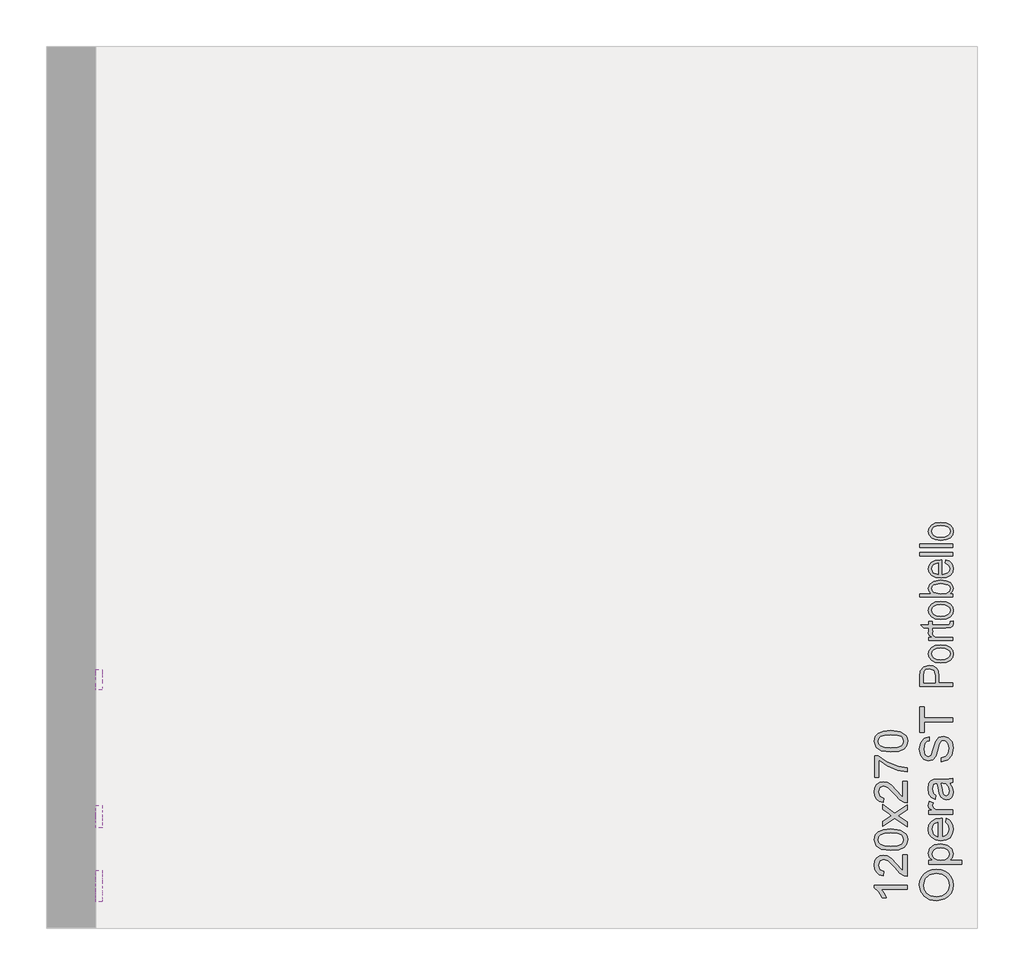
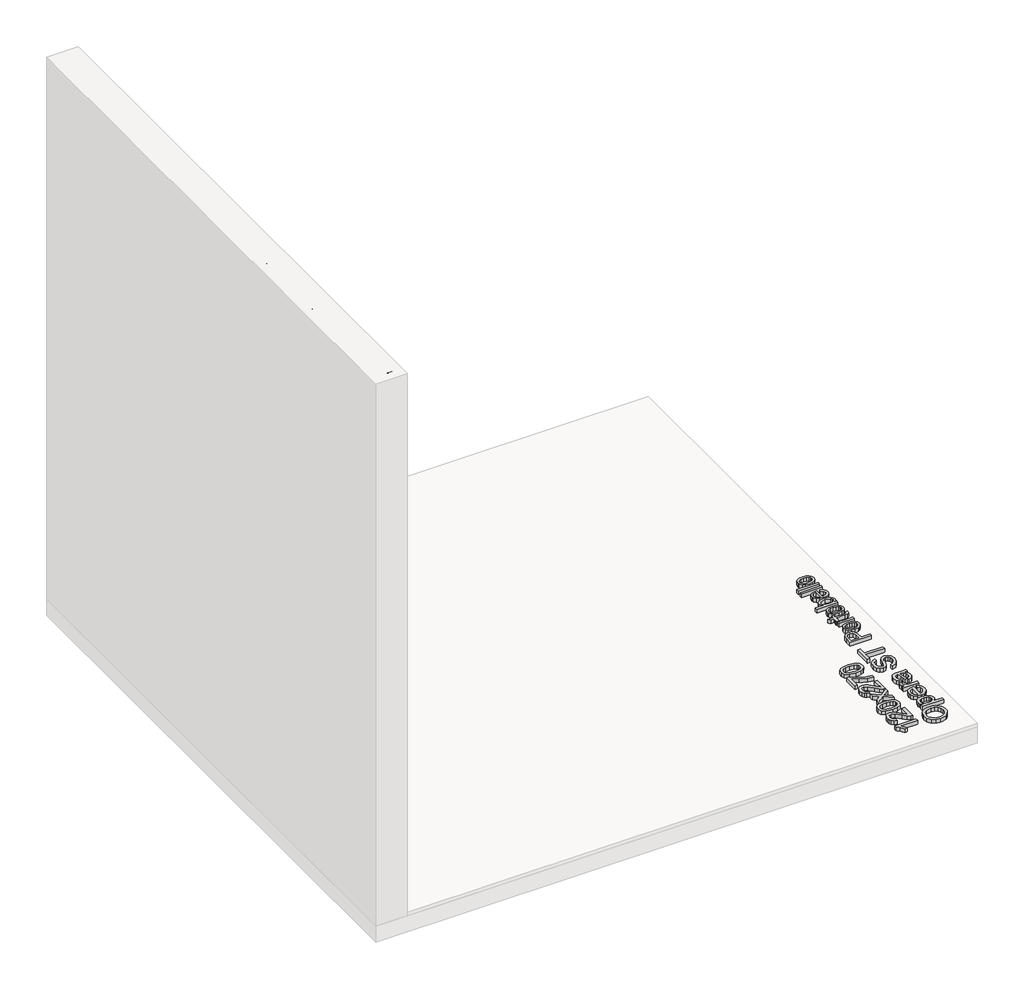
# One storey, part 5 of 6: 6 proxies.
"""IFC4 building model written with IfcOpenShell, lengths in millimetres."""

from ifc_helpers import new_model, si_unit, frame, origin, origin_with_axes, place, context, project, spatial, polyline, outline, extrude, element, save

model = new_model("IFC4")

# Units and contexts
model_context = context("Model", 3, world=origin())
ifc_project = project(units=[si_unit("LENGTHUNIT", "METRE", prefix="MILLI")], contexts=[model_context])

# Site, building, storey
site = spatial("IfcSite", under=ifc_project)
building = spatial("IfcBuilding", under=site)
storey = spatial("IfcBuildingStorey", under=building, Name="PORTOBELLO - SHOWROOM", Elevation=0.0)

# Proxies
placement = place(None, origin())
element("IfcBuildingElementProxy", 1, Name="10mm Arial", ObjectType="10mm Arial", at=placement, inside=storey, context=model_context, shape_type="SweptSolid", body=[
    extrude(outline(polyline([(-5290.4568129, 3759.179326), (-5312.670754, 3762.5270522), (-5329.4768298, 3772.5702306), (-5340.0534372, 3787.9047785), (-5343.578973, 3807.1266127), (-5341.923504, 3820.3029195), (-5336.957097, 3832.1180629), (-5329.02924, 3841.9282495), (-5318.4894209, 3849.0896856), (-5305.846543, 3853.4674814), (-5291.6095098, 3854.9267466), (-5277.1824042, 3853.3908393), (-5264.3617167, 3848.7831173), (-5253.8035034, 3841.3580324), (-5246.1638206, 3831.3700362), (-5241.5285075, 3819.6560603), (-5239.9834031, 3807.0530363), (-5241.6909887, 3793.6743944), (-5246.8137455, 3781.791806), (-5254.8887553, 3772.0061449), (-5265.4530999, 3764.9182851), (-5290.4568129, 3759.179326)]), holes=[polyline([(-5290.3341855, 3771.7363648), (-5274.619493, 3774.2471594), (-5262.644934, 3781.7795433), (-5255.0665649, 3793.1011117), (-5252.5404419, 3806.9794599), (-5255.0910904, 3821.0601433), (-5262.7430359, 3832.4001058), (-5275.0854768, 3839.8773073), (-5291.7076116, 3842.3697079), (-5312.4316307, 3838.1022767), (-5326.1536291, 3825.6310771), (-5331.0219342, 3807.2001891), (-5328.6766865, 3793.6927885), (-5321.6409433, 3782.2087389), (-5309.1237584, 3774.3544583), (-5290.3341855, 3771.7363648)])]), origin_with_axes(), (0.0, 0.0, 1.0), 20.0),
    extrude(outline(polyline([(-5213.2996957, 3870.6230451), (-5315.3256357, 3870.6230451), (-5315.3256357, 3883.1800839), (-5303.0138516, 3883.1800839), (-5313.4249121, 3891.8620989), (-5316.8952656, 3903.5852719), (-5312.0392232, 3919.5022995), (-5298.354013, 3929.9010972), (-5279.0034201, 3933.4082389), (-5258.6595457, 3929.4473761), (-5244.8026572, 3917.9449324), (-5239.9834031, 3902.0646929), (-5243.2085019, 3891.1385977), (-5251.3632195, 3883.1800839), (-5213.2996957, 3883.1800839), (-5213.2996957, 3870.6230451)]), holes=[polyline([(-5277.8507231, 3883.1800839), (-5266.5935341, 3884.5381816), (-5258.7208594, 3888.6124747), (-5254.0855463, 3894.6242796), (-5252.5404419, 3901.7949128), (-5254.1407286, 3909.082042), (-5258.9415886, 3915.2471311), (-5267.1024375, 3919.4501829), (-5278.7826909, 3920.8512002), (-5289.9785663, 3919.4839054), (-5297.9616056, 3915.3820212), (-5302.7440715, 3909.3794133), (-5304.3382268, 3902.3099476), (-5302.6429039, 3895.2128908), (-5297.5569354, 3888.9803566), (-5289.2397366, 3884.6301521), (-5277.8507231, 3883.1800839)])]), origin_with_axes(), (0.0, 0.0, 1.0), 20.0),
    extrude(outline(polyline([(-5263.5278508, 3999.1855397), (-5261.958221, 4011.4973238), (-5252.6814633, 4007.0612801), (-5245.7468877, 3999.9826173), (-5241.4242743, 3990.4207511), (-5239.9834031, 3978.535097), (-5242.4696723, 3963.8014231), (-5249.9284797, 3952.4645263), (-5261.8754475, 3945.2356451), (-5277.8261977, 3942.826018), (-5294.3134424, 3945.2601705), (-5306.6436206, 3952.5626281), (-5314.3323543, 3963.7462408), (-5316.8952656, 3977.8238585), (-5314.3384857, 3991.4630835), (-5306.6681461, 4002.3615876), (-5294.3624934, 4009.5076953), (-5277.8997741, 4011.8897312), (-5274.5152597, 4011.8161548), (-5274.5152597, 3955.3830568), (-5265.1158747, 3957.5566262), (-5258.2058246, 3962.6058066), (-5253.9567876, 3969.8929358), (-5252.5404419, 3978.7803517), (-5255.1646668, 3991.0921358), (-5263.5278508, 3999.1855397)]), holes=[polyline([(-5287.0722985, 3955.3830568), (-5287.0722985, 3999.3326925), (-5298.4521149, 3994.3049719), (-5302.8666988, 3986.9841202), (-5304.3382268, 3977.7748076), (-5299.6416, 3962.311501), (-5294.1509612, 3957.4462616), (-5287.0722985, 3955.3830568)])]), origin_with_axes(), (0.0, 0.0, 1.0), 20.0),
    extrude(outline(polyline([(-5241.553033, 4024.44677), (-5315.3256357, 4024.44677), (-5315.3256357, 4035.4341789), (-5304.4118032, 4035.4341789), (-5314.4672444, 4043.2332772), (-5316.8952656, 4051.0814265), (-5313.0202419, 4063.6875162), (-5301.7630528, 4059.4936614), (-5304.3382268, 4050.6644935), (-5301.8611547, 4043.564371), (-5294.9940241, 4039.0394225), (-5280.3277952, 4037.0038088), (-5241.553033, 4037.0038088), (-5241.553033, 4024.44677)])), origin_with_axes(), (0.0, 0.0, 1.0), 20.0),
    extrude(outline(polyline([(-5250.970812, 4118.6245608), (-5242.4604752, 4106.4476667), (-5239.9834031, 4092.9954484), (-5241.4733252, 4082.5016145), (-5245.9430914, 4074.7607642), (-5252.7305142, 4069.9874953), (-5261.173406, 4068.3964057), (-5271.1062199, 4070.7999014), (-5278.316707, 4077.115209), (-5282.4369854, 4085.9075887), (-5284.3254463, 4096.7723703), (-5288.6419283, 4118.5509844), (-5291.4378315, 4118.6245608), (-5300.7084578, 4115.16647), (-5304.3382268, 4101.2850561), (-5301.9224684, 4088.5808645), (-5293.3508179, 4082.5230743), (-5294.9204477, 4069.9660355), (-5307.1831809, 4075.3984263), (-5314.3691425, 4086.3367843), (-5316.8952656, 4102.9037368), (-5314.6634481, 4118.1217887), (-5309.0593791, 4126.7179647), (-5300.5367795, 4130.5684629), (-5289.5493706, 4131.1815995), (-5273.9266485, 4131.1815995), (-5252.1112462, 4131.8192617), (-5241.553033, 4134.3208592), (-5241.553033, 4121.7638205), (-5250.970812, 4118.6245608)]), holes=[polyline([(-5276.0848896, 4118.6245608), (-5272.2343914, 4098.3665256), (-5270.1987776, 4087.5630576), (-5266.8878397, 4082.6702271), (-5262.0563228, 4080.9534445), (-5255.2627686, 4084.6935781), (-5252.5404419, 4095.6687243), (-5255.5448115, 4108.3729158), (-5262.8166123, 4116.5644216), (-5272.528697, 4118.5509844), (-5276.0848896, 4118.6245608)])]), origin_with_axes(), (0.0, 0.0, 1.0), 20.0),
    extrude(outline(polyline([(-5276.0848896, 4184.5490143), (-5276.0848896, 4197.1060531), (-5263.5155881, 4201.152755), (-5255.569337, 4211.036518), (-5252.5404419, 4226.0951543), (-5254.833573, 4239.2162788), (-5261.1366178, 4247.6898274), (-5269.5611155, 4250.4734678), (-5277.397002, 4248.3888032), (-5283.0991729, 4239.8539409), (-5287.8939016, 4221.5702058), (-5294.0865819, 4201.888519), (-5303.4307845, 4191.2076784), (-5315.9142469, 4187.688274), (-5330.1267547, 4192.0415443), (-5340.1576704, 4204.7579986), (-5343.578973, 4223.3728275), (-5339.9982549, 4243.2384553), (-5329.4768298, 4256.4822071), (-5313.7560059, 4261.4608768), (-5313.7560059, 4248.903838), (-5321.2485358, 4246.5984442), (-5326.6564012, 4241.7914528), (-5331.0219342, 4223.8633369), (-5326.7054521, 4205.88617), (-5316.2821289, 4200.2453128), (-5307.5755884, 4204.2429638), (-5300.561305, 4224.7462536), (-5294.2582601, 4246.9663262), (-5284.0801916, 4259.1186947), (-5269.8799466, 4263.0305066), (-5254.8580985, 4258.5300835), (-5243.895215, 4245.5806373), (-5239.9834031, 4226.5856636), (-5244.2017833, 4204.1571247), (-5256.9059749, 4189.9691424), (-5276.0848896, 4184.5490143)])), origin_with_axes(), (0.0, 0.0, 1.0), 20.0),
    extrude(outline(polyline([(-5241.553033, 4306.9801423), (-5329.4523043, 4306.9801423), (-5329.4523043, 4274.0179155), (-5342.0093431, 4274.0179155), (-5342.0093431, 4352.4994078), (-5329.4523043, 4352.4994078), (-5329.4523043, 4319.5371811), (-5241.553033, 4319.5371811), (-5241.553033, 4306.9801423)])), origin_with_axes(), (0.0, 0.0, 1.0), 20.0),
])
element("IfcBuildingElementProxy", 2, Name="10mm Arial", ObjectType="10mm Arial", at=placement, inside=storey, context=model_context, shape_type="SweptSolid", body=[
    extrude(outline(polyline([(3755.8223239, 2565.0933702), (3759.1700501, 2587.3073114), (3769.2132286, 2604.1133872), (3784.5477764, 2614.6899946), (3803.7696106, 2618.2155303), (3816.9459174, 2616.5600614), (3828.7610608, 2611.5936544), (3838.5712474, 2603.6657974), (3845.7326836, 2593.1259783), (3850.1104793, 2580.4831004), (3851.5697445, 2566.2460672), (3850.0338372, 2551.8189616), (3845.4261152, 2538.998274), (3838.0010303, 2528.4400608), (3828.0130341, 2520.800378), (3816.2990583, 2516.1650649), (3803.6960342, 2514.6199605), (3790.3173923, 2516.3275461), (3778.4348039, 2521.4503029), (3768.6491428, 2529.5253127), (3761.5612831, 2540.0896573), (3755.8223239, 2565.0933702)]), holes=[polyline([(3768.3793627, 2564.9707429), (3770.8901573, 2549.2560503), (3778.4225412, 2537.2814914), (3789.7441096, 2529.7031223), (3803.6224578, 2527.1769993), (3817.7031412, 2529.7276478), (3829.0431037, 2537.3795933), (3836.5203053, 2549.7220342), (3839.0127058, 2566.344169), (3834.7452746, 2587.0681881), (3822.274075, 2600.7901865), (3803.843187, 2605.6584916), (3790.3357864, 2603.3132439), (3778.8517368, 2596.2775007), (3770.9974562, 2583.7603158), (3768.3793627, 2564.9707429)])]), frame((-7865.9813168, 0.0, 0.0), z_axis=(1.0, 0.0, 0.0), x_axis=(0.0, 1.0, 0.0)), (0.0, 0.0, 1.0), 20.0),
    extrude(outline(polyline([(3867.266043, 2487.9362531), (3867.266043, 2589.9621931), (3879.8230818, 2589.9621931), (3879.8230818, 2577.650409), (3888.5050969, 2588.0614695), (3900.2282698, 2591.531823), (3916.1452974, 2586.6757806), (3926.5440952, 2572.9905704), (3930.0512368, 2553.6399775), (3926.090374, 2533.2961031), (3914.5879303, 2519.4392146), (3898.7076909, 2514.6199605), (3887.7815956, 2517.8450593), (3879.8230818, 2525.9997769), (3879.8230818, 2487.9362531), (3867.266043, 2487.9362531)]), holes=[polyline([(3879.8230818, 2552.4872805), (3881.1811795, 2541.2300915), (3885.2554726, 2533.3574168), (3891.2672775, 2528.7221036), (3898.4379107, 2527.1769993), (3905.7250399, 2528.7772859), (3911.890129, 2533.578146), (3916.0931808, 2541.7389949), (3917.4941981, 2553.4192483), (3916.1269033, 2564.6151236), (3912.0250191, 2572.5981629), (3906.0224112, 2577.3806289), (3898.9529455, 2578.9747842), (3891.8558887, 2577.2794613), (3885.6233546, 2572.1934927), (3881.27315, 2563.876294), (3879.8230818, 2552.4872805)])]), frame((-7865.9813168, 0.0, 0.0), z_axis=(1.0, 0.0, 0.0), x_axis=(0.0, 1.0, 0.0)), (0.0, 0.0, 1.0), 20.0),
    extrude(outline(polyline([(3995.8285376, 2538.1644082), (4008.1403217, 2536.5947783), (4003.704278, 2527.3180207), (3996.6256152, 2520.3834451), (3987.063749, 2516.0608316), (3975.1780949, 2514.6199605), (3960.444421, 2517.1062296), (3949.1075242, 2524.5650371), (3941.878643, 2536.5120049), (3939.4690159, 2552.4627551), (3941.9031685, 2568.9499998), (3949.2056261, 2581.280178), (3960.3892387, 2588.9689117), (3974.4668564, 2591.531823), (3988.1060814, 2588.9750431), (3999.0045855, 2581.3047035), (4006.1506932, 2568.9990508), (4008.5327292, 2552.5363315), (4008.4591528, 2549.1518171), (3952.0260547, 2549.1518171), (3954.1996241, 2539.7524321), (3959.2488045, 2532.842382), (3966.5359337, 2528.5933449), (3975.4233496, 2527.1769993), (3987.7351337, 2529.8012242), (3995.8285376, 2538.1644082)]), holes=[polyline([(3952.0260547, 2561.7088559), (3995.9756904, 2561.7088559), (3990.9479698, 2573.0886723), (3983.6271181, 2577.5032562), (3974.4178055, 2578.9747842), (3958.9544989, 2574.2781574), (3954.0892595, 2568.7875186), (3952.0260547, 2561.7088559)])]), frame((-7865.9813168, 0.0, 0.0), z_axis=(1.0, 0.0, 0.0), x_axis=(0.0, 1.0, 0.0)), (0.0, 0.0, 1.0), 20.0),
    extrude(outline(polyline([(4021.0897679, 2516.1895903), (4021.0897679, 2589.9621931), (4032.0771768, 2589.9621931), (4032.0771768, 2579.0483606), (4039.8762751, 2589.1038018), (4047.7244244, 2591.531823), (4060.3305141, 2587.6567993), (4056.1366593, 2576.3996102), (4047.3074914, 2578.9747842), (4040.2073689, 2576.4977121), (4035.6824204, 2569.6305815), (4033.6468067, 2554.9643526), (4033.6468067, 2516.1895903), (4021.0897679, 2516.1895903)])), frame((-7865.9813168, 0.0, 0.0), z_axis=(1.0, 0.0, 0.0), x_axis=(0.0, 1.0, 0.0)), (0.0, 0.0, 1.0), 20.0),
    extrude(outline(polyline([(4115.2675587, 2525.6073694), (4103.0906646, 2517.0970326), (4089.6384464, 2514.6199605), (4079.1446124, 2516.1098826), (4071.4037621, 2520.5796488), (4066.6304932, 2527.3670716), (4065.0394036, 2535.8099634), (4067.4428993, 2545.7427773), (4073.7582069, 2552.9532644), (4082.5505866, 2557.0735427), (4093.4153682, 2558.9620036), (4115.1939823, 2563.2784857), (4115.2675587, 2566.0743889), (4111.8094679, 2575.3450152), (4097.928054, 2578.9747842), (4085.2238624, 2576.5590258), (4079.1660722, 2567.9873753), (4066.6090335, 2569.5570051), (4072.0414243, 2581.8197383), (4082.9797822, 2589.0056999), (4099.5467348, 2591.531823), (4114.7647866, 2589.3000055), (4123.3609626, 2583.6959365), (4127.2114608, 2575.1733369), (4127.8245975, 2564.185928), (4127.8245975, 2548.5632059), (4128.4622596, 2526.7478036), (4130.9638571, 2516.1895903), (4118.4068184, 2516.1895903), (4115.2675587, 2525.6073694)]), holes=[polyline([(4115.2675587, 2550.721447), (4095.0095235, 2546.8709487), (4084.2060556, 2544.835335), (4079.313225, 2541.5243971), (4077.5964424, 2536.6928802), (4081.336576, 2529.899326), (4092.3117222, 2527.1769993), (4105.0159138, 2530.1813689), (4113.2074195, 2537.4531697), (4115.1939823, 2547.1652543), (4115.2675587, 2550.721447)])]), frame((-7865.9813168, 0.0, 0.0), z_axis=(1.0, 0.0, 0.0), x_axis=(0.0, 1.0, 0.0)), (0.0, 0.0, 1.0), 20.0),
    extrude(outline(polyline([(4181.1920122, 2550.721447), (4193.749051, 2550.721447), (4197.7957529, 2538.1521455), (4207.6795159, 2530.2058944), (4222.7381522, 2527.1769993), (4235.8592767, 2529.4701304), (4244.3328253, 2535.7731752), (4247.1164658, 2544.1976729), (4245.0318011, 2552.0335594), (4236.4969388, 2557.7357303), (4218.2132037, 2562.530459), (4198.5315169, 2568.7231393), (4187.8506763, 2578.0673419), (4184.3312719, 2590.5508043), (4188.6845422, 2604.763312), (4201.4009965, 2614.7942278), (4220.0158254, 2618.2155303), (4239.8814532, 2614.6348123), (4253.125205, 2604.1133872), (4258.1038747, 2588.3925633), (4245.5468359, 2588.3925633), (4243.2414421, 2595.8850932), (4238.4344507, 2601.2929586), (4220.5063348, 2605.6584916), (4202.5291679, 2601.3420095), (4196.8883107, 2590.9186863), (4200.8859617, 2582.2121457), (4221.3892516, 2575.1978624), (4243.6093241, 2568.8948175), (4255.7616926, 2558.716749), (4259.6735045, 2544.516504), (4255.1730815, 2529.4946558), (4242.2236352, 2518.5317724), (4223.2286615, 2514.6199605), (4200.8001226, 2518.8383407), (4186.6121403, 2531.5425323), (4181.1920122, 2550.721447)])), frame((-7865.9813168, 0.0, 0.0), z_axis=(1.0, 0.0, 0.0), x_axis=(0.0, 1.0, 0.0)), (0.0, 0.0, 1.0), 20.0),
    extrude(outline(polyline([(4303.6231402, 2516.1895903), (4303.6231402, 2604.0888617), (4270.6609134, 2604.0888617), (4270.6609134, 2616.6459005), (4349.1424058, 2616.6459005), (4349.1424058, 2604.0888617), (4316.180179, 2604.0888617), (4316.180179, 2516.1895903), (4303.6231402, 2516.1895903)])), frame((-7865.9813168, 0.0, 0.0), z_axis=(1.0, 0.0, 0.0), x_axis=(0.0, 1.0, 0.0)), (0.0, 0.0, 1.0), 20.0),
])
element("IfcBuildingElementProxy", 3, Name="10mm Arial", ObjectType="10mm Arial", at=placement, inside=storey, context=model_context, shape_type="SweptSolid", body=[
    extrude(outline(polyline([(3802.9112193, 2381.1895903), (3790.3541805, 2381.1895903), (3790.3541805, 2459.4748789), (3778.4593294, 2451.0013303), (3765.240103, 2444.6614972), (3765.240103, 2456.531823), (3783.6464655, 2468.2795213), (3794.8178154, 2481.6459005), (3802.9112193, 2481.6459005), (3802.9112193, 2381.1895903)])), frame((-7865.9813168, 0.0, 0.0), z_axis=(1.0, 0.0, 0.0), x_axis=(0.0, 1.0, 0.0)), (0.0, 0.0, 1.0), 20.0),
    extrude(outline(polyline([(3897.0890101, 2393.7466291), (3897.0890101, 2381.1895903), (3831.1645565, 2381.1895903), (3832.5134572, 2389.84708), (3840.15314, 2403.1766709), (3855.8862266, 2417.7325352), (3877.5544761, 2438.652758), (3882.9623415, 2452.8775285), (3877.8487817, 2464.3922349), (3864.4946653, 2469.0888617), (3850.5764632, 2464.5025995), (3845.2912252, 2451.8229334), (3832.7341864, 2453.3925633), (3835.7784099, 2465.5388005), (3842.3604319, 2474.4108879), (3852.136896, 2479.8371473), (3864.7644454, 2481.6459005), (3877.4839654, 2479.6348123), (3887.2420353, 2473.6015475), (3893.450044, 2464.5884386), (3895.5193802, 2453.6378179), (3893.2875628, 2441.730704), (3885.8686092, 2429.4189199), (3867.8791797, 2412.2143053), (3853.43368, 2400.1355131), (3847.7682973, 2393.7466291), (3897.0890101, 2393.7466291)])), frame((-7865.9813168, 0.0, 0.0), z_axis=(1.0, 0.0, 0.0), x_axis=(0.0, 1.0, 0.0)), (0.0, 0.0, 1.0), 20.0),
    extrude(outline(polyline([(3909.6460488, 2430.608405), (3913.3371315, 2459.5116671), (3924.300015, 2476.1767215), (3942.6082756, 2481.6459005), (3957.2745045, 2478.4085389), (3967.4035221, 2469.076599), (3973.289634, 2454.2141664), (3975.5705024, 2430.608405), (3971.9162079, 2401.8277703), (3960.9901126, 2385.1259277), (3952.758753, 2380.9964523), (3942.6082756, 2379.6199605), (3929.5607275, 2382.0111935), (3919.6524391, 2389.1848924), (3912.1476464, 2406.1749092), (3909.6460488, 2430.608405)]), holes=[polyline([(3922.2030876, 2430.6329305), (3923.6746156, 2410.880733), (3928.0891995, 2399.4488), (3934.6620245, 2393.9949495), (3942.6082756, 2392.1769993), (3950.5545267, 2394.0010808), (3957.1273517, 2399.4733255), (3961.5419356, 2410.9113899), (3963.0134636, 2430.6329305), (3961.5909866, 2449.9406039), (3957.3235554, 2461.4614417), (3950.7629932, 2467.1820067), (3942.4611228, 2469.0888617), (3934.6007109, 2467.4088673), (3928.2854033, 2462.3688839), (3923.7236665, 2450.1306762), (3922.2030876, 2430.6329305)])]), frame((-7865.9813168, 0.0, 0.0), z_axis=(1.0, 0.0, 0.0), x_axis=(0.0, 1.0, 0.0)), (0.0, 0.0, 1.0), 20.0),
    extrude(outline(polyline([(3981.8490218, 2381.1895903), (4008.6798819, 2418.2966209), (3983.4186516, 2454.9621931), (3998.477288, 2454.9621931), (4010.6664447, 2437.2793319), (4016.3808784, 2428.9651988), (4021.3350226, 2435.7832784), (4035.2164365, 2454.9621931), (4050.3241238, 2454.9621931), (4023.7875692, 2418.2720955), (4049.3431052, 2381.1895903), (4034.2599433, 2381.1895903), (4018.8579505, 2403.5077647), (4016.0620473, 2407.6035176), (3996.956709, 2381.1895903), (3981.8490218, 2381.1895903)])), frame((-7865.9813168, 0.0, 0.0), z_axis=(1.0, 0.0, 0.0), x_axis=(0.0, 1.0, 0.0)), (0.0, 0.0, 1.0), 20.0),
    extrude(outline(polyline([(4121.5460781, 2393.7466291), (4121.5460781, 2381.1895903), (4055.6216245, 2381.1895903), (4056.9705252, 2389.84708), (4064.6102079, 2403.1766709), (4080.3432946, 2417.7325352), (4102.0115441, 2438.652758), (4107.4194095, 2452.8775285), (4102.3058497, 2464.3922349), (4088.9517333, 2469.0888617), (4075.0335311, 2464.5025995), (4069.7482931, 2451.8229334), (4057.1912544, 2453.3925633), (4060.2354779, 2465.5388005), (4066.8174999, 2474.4108879), (4076.5939639, 2479.8371473), (4089.2215134, 2481.6459005), (4101.9410334, 2479.6348123), (4111.6991033, 2473.6015475), (4117.907112, 2464.5884386), (4119.9764482, 2453.6378179), (4117.7446308, 2441.730704), (4110.3256772, 2429.4189199), (4092.3362477, 2412.2143053), (4077.890748, 2400.1355131), (4072.2253653, 2393.7466291), (4121.5460781, 2393.7466291)])), frame((-7865.9813168, 0.0, 0.0), z_axis=(1.0, 0.0, 0.0), x_axis=(0.0, 1.0, 0.0)), (0.0, 0.0, 1.0), 20.0),
    extrude(outline(polyline([(4134.1031168, 2467.5192319), (4134.1031168, 2480.0762706), (4200.0275704, 2480.0762706), (4200.0275704, 2469.9227276), (4181.3269023, 2442.9079264), (4167.0162927, 2408.4864344), (4162.3564541, 2381.1895903), (4149.7994153, 2381.1895903), (4154.7903477, 2409.516504), (4168.4878207, 2441.5345003), (4187.4705316, 2467.5192319), (4134.1031168, 2467.5192319)])), frame((-7865.9813168, 0.0, 0.0), z_axis=(1.0, 0.0, 0.0), x_axis=(0.0, 1.0, 0.0)), (0.0, 0.0, 1.0), 20.0),
    extrude(outline(polyline([(4211.0149793, 2430.608405), (4214.706062, 2459.5116671), (4225.6689454, 2476.1767215), (4243.9772061, 2481.6459005), (4258.6434349, 2478.4085389), (4268.7724525, 2469.076599), (4274.6585645, 2454.2141664), (4276.9394328, 2430.608405), (4273.2851383, 2401.8277703), (4262.3590431, 2385.1259277), (4254.1276834, 2380.9964523), (4243.9772061, 2379.6199605), (4230.929658, 2382.0111935), (4221.0213696, 2389.1848924), (4213.5165769, 2406.1749092), (4211.0149793, 2430.608405)]), holes=[polyline([(4223.5720181, 2430.6329305), (4225.043546, 2410.880733), (4229.45813, 2399.4488), (4236.030955, 2393.9949495), (4243.9772061, 2392.1769993), (4251.9234572, 2394.0010808), (4258.4962821, 2399.4733255), (4262.9108661, 2410.9113899), (4264.3823941, 2430.6329305), (4262.959917, 2449.9406039), (4258.6924859, 2461.4614417), (4252.1319236, 2467.1820067), (4243.8300533, 2469.0888617), (4235.9696413, 2467.4088673), (4229.6543337, 2462.3688839), (4225.092597, 2450.1306762), (4223.5720181, 2430.6329305)])]), frame((-7865.9813168, 0.0, 0.0), z_axis=(1.0, 0.0, 0.0), x_axis=(0.0, 1.0, 0.0)), (0.0, 0.0, 1.0), 20.0),
])
element("IfcBuildingElementProxy", 4, Name="10mm Arial", ObjectType="10mm Arial", at=placement, inside=storey, context=model_context, shape_type="SweptSolid", body=[
    extrude(outline(polyline([(-5381.553033, 3806.2682214), (-5381.553033, 3793.7111826), (-5459.8383215, 3793.7111826), (-5451.3647729, 3781.8163315), (-5445.0249399, 3768.5971051), (-5456.8952656, 3768.5971051), (-5468.6429639, 3787.0034676), (-5482.0093431, 3798.1748175), (-5482.0093431, 3806.2682214), (-5381.553033, 3806.2682214)])), origin_with_axes(), (0.0, 0.0, 1.0), 20.0),
    extrude(outline(polyline([(-5394.1100717, 3900.4460122), (-5381.553033, 3900.4460122), (-5381.553033, 3834.5215586), (-5390.2105226, 3835.8704593), (-5403.5401135, 3843.510142), (-5418.0959778, 3859.2432287), (-5439.0162006, 3880.9114782), (-5453.2409711, 3886.3193436), (-5464.7556775, 3881.2057838), (-5469.4523043, 3867.8516674), (-5464.8660421, 3853.9334652), (-5452.186376, 3848.6482272), (-5453.7560059, 3836.0911885), (-5465.9022431, 3839.135412), (-5474.7743305, 3845.717434), (-5480.20059, 3855.493898), (-5482.0093431, 3868.1214475), (-5479.9982549, 3880.8409675), (-5473.9649901, 3890.5990374), (-5464.9518813, 3896.8070461), (-5454.0012605, 3898.8763823), (-5442.0941466, 3896.6445649), (-5429.7823625, 3889.2256113), (-5412.5777479, 3871.2361817), (-5400.4989557, 3856.7906821), (-5394.1100717, 3851.1252993), (-5394.1100717, 3900.4460122)])), origin_with_axes(), (0.0, 0.0, 1.0), 20.0),
    extrude(outline(polyline([(-5430.9718476, 3913.0030509), (-5459.8751097, 3916.6941336), (-5476.5401641, 3927.6570171), (-5482.0093431, 3945.9652777), (-5478.7719815, 3960.6315066), (-5469.4400416, 3970.7605242), (-5454.577609, 3976.6466361), (-5430.9718476, 3978.9275045), (-5402.1912129, 3975.27321), (-5385.4893703, 3964.3471147), (-5381.3598949, 3956.1157551), (-5379.9834031, 3945.9652777), (-5382.3746361, 3932.9177296), (-5389.548335, 3923.0094412), (-5406.5383518, 3915.5046485), (-5430.9718476, 3913.0030509)]), holes=[polyline([(-5430.9963731, 3925.5600897), (-5411.2441757, 3927.0316177), (-5399.8122427, 3931.4462016), (-5394.3583921, 3938.0190266), (-5392.5404419, 3945.9652777), (-5394.3645234, 3953.9115288), (-5399.8367681, 3960.4843538), (-5411.2748325, 3964.8989377), (-5430.9963731, 3966.3704657), (-5450.3040465, 3964.9479887), (-5461.8248843, 3960.6805575), (-5467.5454493, 3954.1199953), (-5469.4523043, 3945.8181249), (-5467.7723099, 3937.9577129), (-5462.7323266, 3931.6424054), (-5450.4941189, 3927.0806686), (-5430.9963731, 3925.5600897)])]), origin_with_axes(), (0.0, 0.0, 1.0), 20.0),
    extrude(outline(polyline([(-5381.553033, 3985.2060239), (-5418.6600635, 4012.036884), (-5455.3256357, 3986.7756537), (-5455.3256357, 4001.83429), (-5437.6427745, 4014.0234468), (-5429.3286414, 4019.7378805), (-5436.146721, 4024.6920247), (-5455.3256357, 4038.5734386), (-5455.3256357, 4053.6811259), (-5418.6355381, 4027.1445713), (-5381.553033, 4052.7001072), (-5381.553033, 4037.6169454), (-5403.8712073, 4022.2149526), (-5407.9669602, 4019.4190494), (-5381.553033, 4000.3137111), (-5381.553033, 3985.2060239)])), origin_with_axes(), (0.0, 0.0, 1.0), 20.0),
    extrude(outline(polyline([(-5394.1100717, 4124.9030802), (-5381.553033, 4124.9030802), (-5381.553033, 4058.9786266), (-5390.2105226, 4060.3275273), (-5403.5401135, 4067.96721), (-5418.0959778, 4083.7002967), (-5439.0162006, 4105.3685462), (-5453.2409711, 4110.7764115), (-5464.7556775, 4105.6628518), (-5469.4523043, 4092.3087354), (-5464.8660421, 4078.3905332), (-5452.186376, 4073.1052952), (-5453.7560059, 4060.5482565), (-5465.9022431, 4063.59248), (-5474.7743305, 4070.174502), (-5480.20059, 4079.950966), (-5482.0093431, 4092.5785155), (-5479.9982549, 4105.2980355), (-5473.9649901, 4115.0561054), (-5464.9518813, 4121.2641141), (-5454.0012605, 4123.3334503), (-5442.0941466, 4121.1016329), (-5429.7823625, 4113.6826793), (-5412.5777479, 4095.6932497), (-5400.4989557, 4081.2477501), (-5394.1100717, 4075.5823673), (-5394.1100717, 4124.9030802)])), origin_with_axes(), (0.0, 0.0, 1.0), 20.0),
    extrude(outline(polyline([(-5467.8826745, 4137.4601189), (-5480.4397133, 4137.4601189), (-5480.4397133, 4203.3845725), (-5470.2861702, 4203.3845725), (-5443.271369, 4184.6839044), (-5408.849877, 4170.3732948), (-5381.553033, 4165.7134562), (-5381.553033, 4153.1564174), (-5409.8799466, 4158.1473498), (-5441.8979429, 4171.8448227), (-5467.8826745, 4190.8275337), (-5467.8826745, 4137.4601189)])), origin_with_axes(), (0.0, 0.0, 1.0), 20.0),
    extrude(outline(polyline([(-5430.9718476, 4214.3719814), (-5459.8751097, 4218.0630641), (-5476.5401641, 4229.0259475), (-5482.0093431, 4247.3342082), (-5478.7719815, 4262.000437), (-5469.4400416, 4272.1294546), (-5454.577609, 4278.0155665), (-5430.9718476, 4280.2964349), (-5402.1912129, 4276.6421404), (-5385.4893703, 4265.7160452), (-5381.3598949, 4257.4846855), (-5379.9834031, 4247.3342082), (-5382.3746361, 4234.2866601), (-5389.548335, 4224.3783717), (-5406.5383518, 4216.873579), (-5430.9718476, 4214.3719814)]), holes=[polyline([(-5430.9963731, 4226.9290202), (-5411.2441757, 4228.4005481), (-5399.8122427, 4232.8151321), (-5394.3583921, 4239.3879571), (-5392.5404419, 4247.3342082), (-5394.3645234, 4255.2804592), (-5399.8367681, 4261.8532842), (-5411.2748325, 4266.2678682), (-5430.9963731, 4267.7393961), (-5450.3040465, 4266.3169191), (-5461.8248843, 4262.049488), (-5467.5454493, 4255.4889257), (-5469.4523043, 4247.1870554), (-5467.7723099, 4239.3266434), (-5462.7323266, 4233.0113358), (-5450.4941189, 4228.4495991), (-5430.9963731, 4226.9290202)])]), origin_with_axes(), (0.0, 0.0, 1.0), 20.0),
])
element("IfcBuildingElementProxy", 5, Name="10mm Arial Narrow", ObjectType="10mm Arial Narrow", at=placement, inside=storey, context=model_context, shape_type="SweptSolid", body=[
    extrude(outline(polyline([(-5241.553033, 4416.2021152), (-5342.2716367, 4416.2021152), (-5342.2716367, 4447.4989999), (-5340.393316, 4463.7947014), (-5330.9128728, 4475.2676875), (-5313.893764, 4479.5573659), (-5301.8179384, 4477.7710575), (-5292.1915447, 4472.4121323), (-5285.8902863, 4462.6683435), (-5283.7898668, 4447.7274443), (-5283.7898668, 4425.9490768), (-5241.553033, 4425.9490768), (-5241.553033, 4416.2021152)]), holes=[polyline([(-5295.1613221, 4425.9490768), (-5295.1613221, 4448.9204318), (-5299.6921363, 4464.7846272), (-5313.360727, 4469.8104043), (-5323.5265034, 4467.3355898), (-5329.3264533, 4461.357961), (-5330.9001814, 4448.6919874), (-5330.9001814, 4425.9490768), (-5295.1613221, 4425.9490768)])]), origin_with_axes(), (0.0, 0.0, 1.0), 20.0),
    extrude(outline(polyline([(-5278.1041392, 4487.679834), (-5294.6949147, 4489.6343028), (-5306.6469995, 4495.4977095), (-5313.8715541, 4504.3562762), (-5316.279739, 4515.2962253), (-5313.8715541, 4526.1092609), (-5306.6469995, 4534.9932103), (-5294.8852851, 4540.9327651), (-5278.8656205, 4542.9126167), (-5261.703734, 4540.9676663), (-5249.5612788, 4535.1328153), (-5242.3367242, 4526.2837671), (-5239.9285393, 4515.2962253), (-5242.3430699, 4504.4355972), (-5249.5866615, 4495.5611663), (-5261.545092, 4489.650167), (-5278.1041392, 4487.679834)]), holes=[polyline([(-5278.1295219, 4497.4267956), (-5265.5777705, 4498.7308325), (-5256.7065124, 4502.6429431), (-5251.4332539, 4508.4841398), (-5249.675501, 4515.5754352), (-5251.449118, 4522.2955083), (-5256.7699692, 4527.9875816), (-5265.6570914, 4531.8711367), (-5278.1295219, 4533.165655), (-5290.6431992, 4531.8616182), (-5299.5017659, 4527.9495076), (-5304.7750245, 4522.1083108), (-5306.5327773, 4515.0170155), (-5304.7655059, 4508.2493497), (-5299.4636918, 4502.5667949), (-5290.5956066, 4498.7117955), (-5278.1295219, 4497.4267956)])]), origin_with_axes(), (0.0, 0.0, 1.0), 20.0),
    extrude(outline(polyline([(-5249.675501, 4614.3903355), (-5239.9285393, 4616.0148291), (-5239.9285393, 4608.6538424), (-5242.0479959, 4600.3790781), (-5247.8479457, 4596.0640169), (-5262.4937709, 4594.8964122), (-5304.9082837, 4594.8964122), (-5304.9082837, 4586.7739441), (-5308.1572709, 4586.7739441), (-5303.2837901, 4585.1494505), (-5304.9082837, 4577.5854021), (-5302.5857655, 4571.5062425), (-5296.1004824, 4567.6353788), (-5280.6931758, 4565.6555272), (-5241.553033, 4565.6555272), (-5241.553033, 4555.9085656), (-5314.6552454, 4555.9085656), (-5314.6552454, 4565.6555272), (-5304.9590491, 4565.6555272), (-5314.0460603, 4571.8996745), (-5316.279739, 4578.2961181), (-5314.6552454, 4586.7739441), (-5314.6552454, 4594.8964122), (-5330.9001814, 4594.8964122), (-5339.0226495, 4604.6433738), (-5314.6552454, 4604.6433738), (-5314.6552454, 4614.3903355), (-5304.9082837, 4614.3903355), (-5304.9082837, 4604.6433738), (-5260.2600922, 4604.6433738), (-5252.2645377, 4605.506386), (-5249.675501, 4610.1260397), (-5249.675501, 4614.3903355)])), origin_with_axes(), (0.0, 0.0, 1.0), 20.0),
    extrude(outline(polyline([(-5278.1041392, 4620.8883099), (-5294.6949147, 4622.8427788), (-5306.6469995, 4628.7061854), (-5313.8715541, 4637.5647521), (-5316.279739, 4648.5047013), (-5313.8715541, 4659.3177368), (-5306.6469995, 4668.2016863), (-5294.8852851, 4674.141241), (-5278.8656205, 4676.1210926), (-5261.703734, 4674.1761423), (-5249.5612788, 4668.3412912), (-5242.3367242, 4659.492243), (-5239.9285393, 4648.5047013), (-5242.3430699, 4637.6440731), (-5249.5866615, 4628.7696422), (-5261.545092, 4622.858643), (-5278.1041392, 4620.8883099)]), holes=[polyline([(-5278.1295219, 4630.6352716), (-5265.5777705, 4631.9393084), (-5256.7065124, 4635.851419), (-5251.4332539, 4641.6926158), (-5249.675501, 4648.7839111), (-5251.449118, 4655.5039843), (-5256.7699692, 4661.1960576), (-5265.6570914, 4665.0796126), (-5278.1295219, 4666.374131), (-5290.6431992, 4665.0700941), (-5299.5017659, 4661.1579835), (-5304.7750245, 4655.3167868), (-5306.5327773, 4648.2254914), (-5304.7655059, 4641.4578257), (-5299.4636918, 4635.7752709), (-5290.5956066, 4631.9202714), (-5278.1295219, 4630.6352716)])]), origin_with_axes(), (0.0, 0.0, 1.0), 20.0),
    extrude(outline(polyline([(-5241.553033, 4698.8640031), (-5241.553033, 4689.1170415), (-5342.2716367, 4689.1170415), (-5342.2716367, 4698.8640031), (-5306.8627526, 4698.8640031), (-5313.9445294, 4706.2630639), (-5316.279739, 4715.4642972), (-5312.0789, 4728.3460239), (-5299.3494696, 4737.6234053), (-5278.6625588, 4741.100837), (-5262.2082154, 4739.168578), (-5250.0054763, 4733.371801), (-5242.4477736, 4724.9986786), (-5239.9285393, 4715.3373836), (-5242.5429588, 4705.9965454), (-5250.3100688, 4698.8640031), (-5241.553033, 4698.8640031)]), holes=[polyline([(-5278.6625588, 4698.8640031), (-5261.4150056, 4700.9453856), (-5252.6833525, 4706.8341749), (-5249.675501, 4715.2866182), (-5251.4649822, 4721.2293458), (-5256.833426, 4726.4677031), (-5278.2564354, 4731.3538753), (-5299.6921363, 4726.6453821), (-5304.8226171, 4721.4006791), (-5306.5327773, 4715.0835565), (-5304.7432961, 4709.1059277), (-5299.3748524, 4703.8136321), (-5278.6625588, 4698.8640031)])]), origin_with_axes(), (0.0, 0.0, 1.0), 20.0),
    extrude(outline(polyline([(-5264.2959435, 4793.0846325), (-5262.6714499, 4802.8315941), (-5252.7848833, 4799.1320637), (-5245.6650324, 4793.3130769), (-5241.3626626, 4785.6094236), (-5239.9285393, 4776.255894), (-5242.3430699, 4764.66234), (-5249.5866615, 4755.5182177), (-5261.3927957, 4749.578663), (-5277.4949541, 4747.5988114), (-5294.1618777, 4749.5881815), (-5306.342407, 4755.5562918), (-5313.795406, 4764.5703276), (-5316.279739, 4775.6974743), (-5313.8810726, 4786.3804235), (-5306.6850736, 4795.1279408), (-5294.945569, 4800.9627919), (-5278.916386, 4802.9077422), (-5275.6673987, 4802.8315941), (-5275.6673987, 4757.3457731), (-5256.2242409, 4763.3487846), (-5251.312686, 4769.2788208), (-5249.675501, 4776.3828075), (-5253.3306116, 4786.5612753), (-5264.2959435, 4793.0846325)]), holes=[polyline([(-5285.4143604, 4758.0057236), (-5285.4143604, 4793.0846325), (-5299.6794449, 4788.8203367), (-5304.8194442, 4782.9950042), (-5306.5327773, 4775.7736224), (-5300.821667, 4763.5645377), (-5285.4143604, 4758.0057236)])]), origin_with_axes(), (0.0, 0.0, 1.0), 20.0),
    extrude(outline(polyline([(-5241.553033, 4815.827543), (-5342.2716367, 4815.827543), (-5342.2716367, 4825.5745046), (-5241.553033, 4825.5745046), (-5241.553033, 4815.827543)])), origin_with_axes(), (0.0, 0.0, 1.0), 20.0),
    extrude(outline(polyline([(-5241.553033, 4841.8194407), (-5342.2716367, 4841.8194407), (-5342.2716367, 4851.5664024), (-5241.553033, 4851.5664024), (-5241.553033, 4841.8194407)])), origin_with_axes(), (0.0, 0.0, 1.0), 20.0),
    extrude(outline(polyline([(-5278.1041392, 4862.9378576), (-5294.6949147, 4864.8923265), (-5306.6469995, 4870.7557331), (-5313.8715541, 4879.6142998), (-5316.279739, 4890.554249), (-5313.8715541, 4901.3672846), (-5306.6469995, 4910.251234), (-5294.8852851, 4916.1907888), (-5278.8656205, 4918.1706403), (-5261.703734, 4916.22569), (-5249.5612788, 4910.3908389), (-5242.3367242, 4901.5417907), (-5239.9285393, 4890.554249), (-5242.3430699, 4879.6936208), (-5249.5866615, 4870.8191899), (-5261.545092, 4864.9081907), (-5278.1041392, 4862.9378576)]), holes=[polyline([(-5278.1295219, 4872.6848193), (-5265.5777705, 4873.9888562), (-5256.7065124, 4877.9009667), (-5251.4332539, 4883.7421635), (-5249.675501, 4890.8334588), (-5251.449118, 4897.553532), (-5256.7699692, 4903.2456053), (-5265.6570914, 4907.1291603), (-5278.1295219, 4908.4236787), (-5290.6431992, 4907.1196418), (-5299.5017659, 4903.2075312), (-5304.7750245, 4897.3663345), (-5306.5327773, 4890.2750391), (-5304.7655059, 4883.5073734), (-5299.4636918, 4877.8248186), (-5290.5956066, 4873.9698191), (-5278.1295219, 4872.6848193)])]), origin_with_axes(), (0.0, 0.0, 1.0), 20.0),
])
element("IfcBuildingElementProxy", 6, Name="10mm Arial Narrow", ObjectType="10mm Arial Narrow", at=placement, inside=storey, context=model_context, shape_type="SweptSolid", body=[
    extrude(outline(polyline([(4404.317037, 2516.1895903), (4404.317037, 2616.9081941), (4435.6139217, 2616.9081941), (4451.9096232, 2615.0298734), (4463.3826093, 2605.5494302), (4467.6722878, 2588.5303214), (4465.8859794, 2576.4544958), (4460.5270542, 2566.8281021), (4450.7832654, 2560.5268436), (4435.8423661, 2558.4264242), (4414.0639987, 2558.4264242), (4414.0639987, 2516.1895903), (4404.317037, 2516.1895903)]), holes=[polyline([(4414.0639987, 2569.7978794), (4437.0353536, 2569.7978794), (4452.899549, 2574.3286936), (4457.9253261, 2587.9972844), (4455.4505116, 2598.1630608), (4449.4728828, 2603.9630106), (4436.8069092, 2605.5367388), (4414.0639987, 2605.5367388), (4414.0639987, 2569.7978794)])]), frame((-7865.9813168, 0.0, 0.0), z_axis=(1.0, 0.0, 0.0), x_axis=(0.0, 1.0, 0.0)), (0.0, 0.0, 1.0), 20.0),
    extrude(outline(polyline([(4475.7947558, 2552.7406965), (4477.7492247, 2569.3314721), (4483.6126313, 2581.2835569), (4492.471198, 2588.5081115), (4503.4111472, 2590.9162964), (4514.2241828, 2588.5081115), (4523.1081322, 2581.2835569), (4529.0476869, 2569.5218424), (4531.0275385, 2553.5021779), (4529.0825882, 2536.3402913), (4523.2477371, 2524.1978362), (4514.3986889, 2516.9732816), (4503.4111472, 2514.5650967), (4492.550519, 2516.9796273), (4483.6760881, 2524.2232189), (4477.7650889, 2536.1816494), (4475.7947558, 2552.7406965)]), holes=[polyline([(4485.5417175, 2552.7660793), (4486.8457543, 2540.2143279), (4490.7578649, 2531.3430698), (4496.5990617, 2526.0698112), (4503.690357, 2524.3120584), (4510.4104302, 2526.0856754), (4516.1025035, 2531.4065266), (4519.9860585, 2540.2936488), (4521.2805769, 2552.7660793), (4519.97654, 2565.2797566), (4516.0644294, 2574.1383233), (4510.2232327, 2579.4115818), (4503.1319373, 2581.1693347), (4496.3642716, 2579.4020633), (4490.6817168, 2574.1002492), (4486.8267173, 2565.232164), (4485.5417175, 2552.7660793)])]), frame((-7865.9813168, 0.0, 0.0), z_axis=(1.0, 0.0, 0.0), x_axis=(0.0, 1.0, 0.0)), (0.0, 0.0, 1.0), 20.0),
    extrude(outline(polyline([(4602.5052573, 2524.3120584), (4604.1297509, 2514.5650967), (4596.7687643, 2514.5650967), (4588.4939999, 2516.6845532), (4584.1789388, 2522.4845031), (4583.011334, 2537.1303283), (4583.011334, 2579.5448411), (4574.888866, 2579.5448411), (4574.888866, 2582.7938283), (4573.2643724, 2577.9203475), (4565.700324, 2579.5448411), (4559.6211643, 2577.2223229), (4555.7503006, 2570.7370398), (4553.770449, 2555.3297332), (4553.770449, 2516.1895903), (4544.0234874, 2516.1895903), (4544.0234874, 2589.2918027), (4553.770449, 2589.2918027), (4553.770449, 2579.5956065), (4560.0145964, 2588.6826176), (4566.4110399, 2590.9162964), (4574.888866, 2589.2918027), (4583.011334, 2589.2918027), (4583.011334, 2605.5367388), (4592.7582957, 2613.6592069), (4592.7582957, 2589.2918027), (4602.5052573, 2589.2918027), (4602.5052573, 2579.5448411), (4592.7582957, 2579.5448411), (4592.7582957, 2534.8966496), (4593.6213079, 2526.9010951), (4598.2409616, 2524.3120584), (4602.5052573, 2524.3120584)])), frame((-7865.9813168, 0.0, 0.0), z_axis=(1.0, 0.0, 0.0), x_axis=(0.0, 1.0, 0.0)), (0.0, 0.0, 1.0), 20.0),
    extrude(outline(polyline([(4609.0032318, 2552.7406965), (4610.9577006, 2569.3314721), (4616.8211072, 2581.2835569), (4625.679674, 2588.5081115), (4636.6196231, 2590.9162964), (4647.4326587, 2588.5081115), (4656.3166081, 2581.2835569), (4662.2561629, 2569.5218424), (4664.2360145, 2553.5021779), (4662.2910641, 2536.3402913), (4656.456213, 2524.1978362), (4647.6071648, 2516.9732816), (4636.6196231, 2514.5650967), (4625.7589949, 2516.9796273), (4616.884564, 2524.2232189), (4610.9735648, 2536.1816494), (4609.0032318, 2552.7406965)]), holes=[polyline([(4618.7501934, 2552.7660793), (4620.0542303, 2540.2143279), (4623.9663409, 2531.3430698), (4629.8075376, 2526.0698112), (4636.8988329, 2524.3120584), (4643.6189061, 2526.0856754), (4649.3109794, 2531.4065266), (4653.1945345, 2540.2936488), (4654.4890528, 2552.7660793), (4653.1850159, 2565.2797566), (4649.2729054, 2574.1383233), (4643.4317086, 2579.4115818), (4636.3404133, 2581.1693347), (4629.5727475, 2579.4020633), (4623.8901927, 2574.1002492), (4620.0351932, 2565.232164), (4618.7501934, 2552.7660793)])]), frame((-7865.9813168, 0.0, 0.0), z_axis=(1.0, 0.0, 0.0), x_axis=(0.0, 1.0, 0.0)), (0.0, 0.0, 1.0), 20.0),
    extrude(outline(polyline([(4686.978925, 2516.1895903), (4677.2319633, 2516.1895903), (4677.2319633, 2616.9081941), (4686.978925, 2616.9081941), (4686.978925, 2581.49931), (4694.3779857, 2588.5810868), (4703.579219, 2590.9162964), (4716.4609457, 2586.7154574), (4725.7383272, 2573.986027), (4729.2157588, 2553.2991162), (4727.2834998, 2536.8447728), (4721.4867228, 2524.6420337), (4713.1136005, 2517.084331), (4703.4523055, 2514.5650967), (4694.1114672, 2517.1795161), (4686.978925, 2524.9466262), (4686.978925, 2516.1895903)]), holes=[polyline([(4686.978925, 2553.2991162), (4689.0603074, 2536.051563), (4694.9490967, 2527.3199098), (4703.4015401, 2524.3120584), (4709.3442677, 2526.1015396), (4714.582625, 2531.4699834), (4719.4687972, 2552.8929928), (4714.760304, 2574.3286936), (4709.515601, 2579.4591744), (4703.1984784, 2581.1693347), (4697.2208495, 2579.3798535), (4691.9285539, 2574.0114097), (4686.978925, 2553.2991162)])]), frame((-7865.9813168, 0.0, 0.0), z_axis=(1.0, 0.0, 0.0), x_axis=(0.0, 1.0, 0.0)), (0.0, 0.0, 1.0), 20.0),
    extrude(outline(polyline([(4781.1995543, 2538.9325009), (4790.946516, 2537.3080073), (4787.2469856, 2527.4214407), (4781.4279987, 2520.3015898), (4773.7243454, 2515.99922), (4764.3708158, 2514.5650967), (4752.7772618, 2516.9796273), (4743.6331396, 2524.2232189), (4737.6935848, 2536.0293531), (4735.7137332, 2552.1315114), (4737.7031034, 2568.7984351), (4743.6712137, 2580.9789644), (4752.6852495, 2588.4319634), (4763.8123961, 2590.9162964), (4774.4953453, 2588.51763), (4783.2428627, 2581.321631), (4789.0777137, 2569.5821264), (4791.0226641, 2553.5529433), (4790.946516, 2550.3039561), (4745.4606949, 2550.3039561), (4751.4637064, 2530.8607982), (4757.3937427, 2525.9492434), (4764.4977294, 2524.3120584), (4774.6761971, 2527.967169), (4781.1995543, 2538.9325009)]), holes=[polyline([(4746.1206454, 2560.0509178), (4781.1995543, 2560.0509178), (4776.9352586, 2574.3160023), (4771.109926, 2579.4560016), (4763.8885443, 2581.1693347), (4751.6794595, 2575.4582244), (4746.1206454, 2560.0509178)])]), frame((-7865.9813168, 0.0, 0.0), z_axis=(1.0, 0.0, 0.0), x_axis=(0.0, 1.0, 0.0)), (0.0, 0.0, 1.0), 20.0),
    extrude(outline(polyline([(-7845.9813168, 4813.6894265), (-7845.9813168, 4803.9424648), (-7865.9813168, 4803.9424648), (-7865.9813168, 4813.6894265), (-7845.9813168, 4813.6894265)])), frame((0.0, 0.0, 2516.1895903), z_axis=(0.0, 0.0, 1.0), x_axis=(1.0, 0.0, 0.0)), (0.0, 0.0, 1.0), 100.7186038),
    extrude(outline(polyline([(-7845.9813168, 4839.6813242), (-7845.9813168, 4829.9343626), (-7865.9813168, 4829.9343626), (-7865.9813168, 4839.6813242), (-7845.9813168, 4839.6813242)])), frame((0.0, 0.0, 2516.1895903), z_axis=(0.0, 0.0, 1.0), x_axis=(1.0, 0.0, 0.0)), (0.0, 0.0, 1.0), 100.7186038),
    extrude(outline(polyline([(4851.0527795, 2552.7406965), (4853.0072484, 2569.3314721), (4858.870655, 2581.2835569), (4867.7292217, 2588.5081115), (4878.6691708, 2590.9162964), (4889.4822064, 2588.5081115), (4898.3661558, 2581.2835569), (4904.3057106, 2569.5218424), (4906.2855622, 2553.5021779), (4904.3406118, 2536.3402913), (4898.5057608, 2524.1978362), (4889.6567126, 2516.9732816), (4878.6691708, 2514.5650967), (4867.8085427, 2516.9796273), (4858.9341118, 2524.2232189), (4853.0231125, 2536.1816494), (4851.0527795, 2552.7406965)]), holes=[polyline([(4860.7997411, 2552.7660793), (4862.103778, 2540.2143279), (4866.0158886, 2531.3430698), (4871.8570853, 2526.0698112), (4878.9483807, 2524.3120584), (4885.6684538, 2526.0856754), (4891.3605272, 2531.4065266), (4895.2440822, 2540.2936488), (4896.5386005, 2552.7660793), (4895.2345637, 2565.2797566), (4891.3224531, 2574.1383233), (4885.4812563, 2579.4115818), (4878.389961, 2581.1693347), (4871.6222952, 2579.4020633), (4865.9397404, 2574.1002492), (4862.084741, 2565.232164), (4860.7997411, 2552.7660793)])]), frame((-7865.9813168, 0.0, 0.0), z_axis=(1.0, 0.0, 0.0), x_axis=(0.0, 1.0, 0.0)), (0.0, 0.0, 1.0), 20.0),
])

save(model, "model.ifc")
